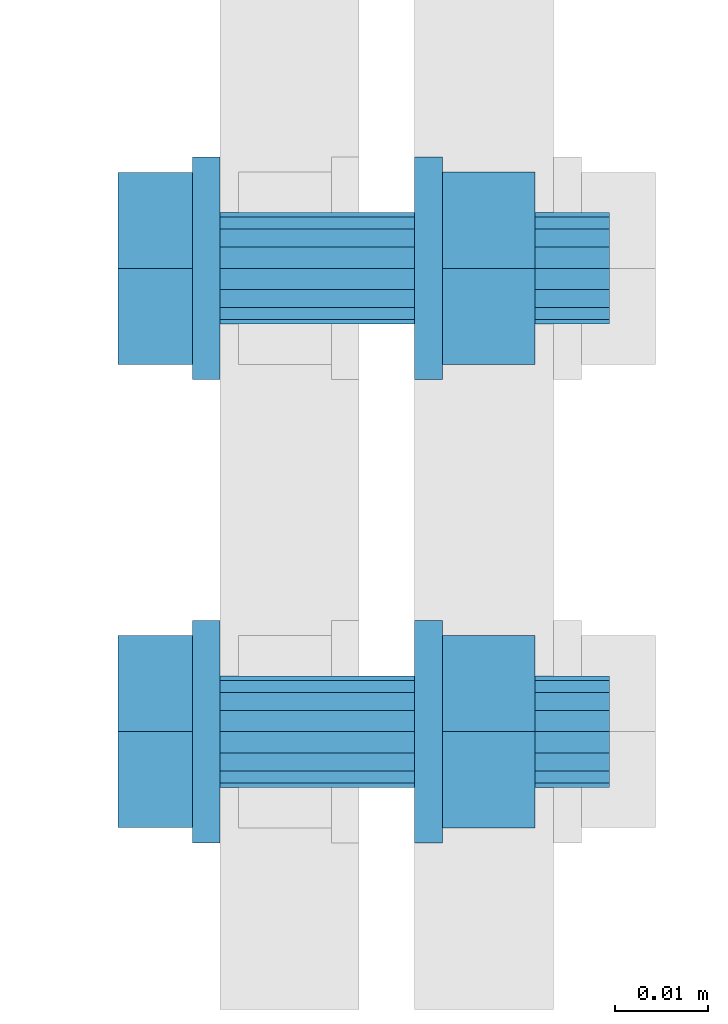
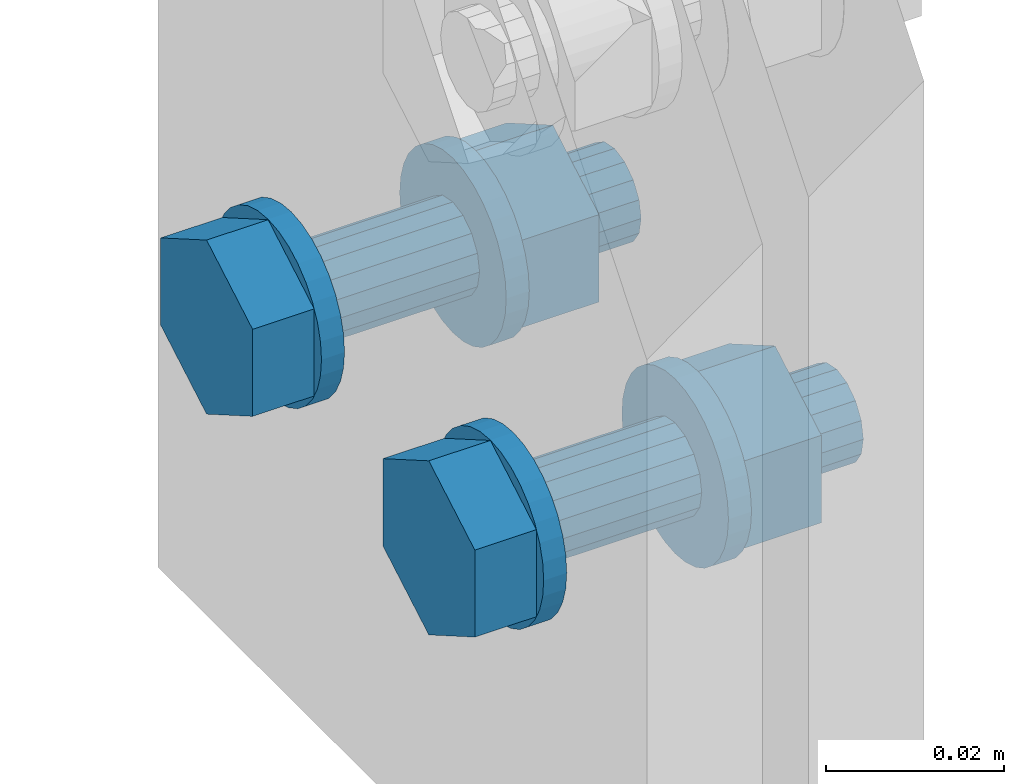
# One storey, part 5 of 13: 2 mechanical fasteners.
"""IFC4X3_ADD2 building model written with IfcOpenShell, lengths in millimetres."""

from ifc_helpers import new_model, entity, si_unit, converted_unit, derived_unit, direction, origin, place, context, project, spatial, faceted_brep, element, save


model = new_model("IFC4X3_ADD2")

# Units and contexts
model_context = context("Model", 3, precision=0.01, world=origin(), true_north=direction((6.123233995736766e-17, 1.0)))
plan_context = context("Plan", 3, precision=0.01, world=origin(), true_north=direction((6.123233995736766e-17, 1.0)))
ifc_project = project(units=[si_unit("LENGTHUNIT", "METRE", prefix="MILLI"), converted_unit("PLANEANGLEUNIT", "DEGREE", entity("IfcPlaneAngleMeasure", 0.017453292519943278), si_unit("PLANEANGLEUNIT", "RADIAN"), dimensions=[0, 0, 0, 0, 0, 0, 0]), si_unit("AREAUNIT", "SQUARE_METRE"), si_unit("VOLUMEUNIT", "CUBIC_METRE"), derived_unit("THERMALTRANSMITTANCEUNIT", [(si_unit("MASSUNIT", "GRAM", prefix="KILO"), 1), (si_unit("THERMODYNAMICTEMPERATUREUNIT", "KELVIN"), -1), (si_unit("TIMEUNIT", "SECOND"), -3)]), derived_unit("USERDEFINED", [(si_unit("MASSUNIT", "GRAM", prefix="KILO"), 1), (si_unit("THERMODYNAMICTEMPERATUREUNIT", "KELVIN"), -1), (si_unit("TIMEUNIT", "SECOND"), -2)]), derived_unit("THERMALRESISTANCEUNIT", [(si_unit("MASSUNIT", "GRAM", prefix="KILO"), -1), (si_unit("TIMEUNIT", "SECOND"), 3), (si_unit("THERMODYNAMICTEMPERATUREUNIT", "KELVIN"), 1)]), si_unit("MASSUNIT", "GRAM", prefix="KILO"), derived_unit("MOMENTOFINERTIAUNIT", [(si_unit("LENGTHUNIT", "METRE"), 4)]), derived_unit("LINEARFORCEUNIT", [(si_unit("MASSUNIT", "GRAM", prefix="KILO"), 1), (si_unit("TIMEUNIT", "SECOND"), -2)]), derived_unit("WARPINGCONSTANTUNIT", [(si_unit("LENGTHUNIT", "METRE"), 6)]), si_unit("PRESSUREUNIT", "PASCAL"), derived_unit("MASSDENSITYUNIT", [(si_unit("MASSUNIT", "GRAM", prefix="KILO"), 1), (si_unit("LENGTHUNIT", "METRE"), -3)]), derived_unit("MODULUSOFELASTICITYUNIT", [(si_unit("MASSUNIT", "GRAM", prefix="KILO"), 1), (si_unit("TIMEUNIT", "SECOND"), -2), (si_unit("LENGTHUNIT", "METRE"), -1)]), derived_unit("THERMALEXPANSIONCOEFFICIENTUNIT", [(si_unit("THERMODYNAMICTEMPERATUREUNIT", "KELVIN"), -1)]), derived_unit("VAPORPERMEABILITYUNIT", [(si_unit("LENGTHUNIT", "METRE"), -1), (si_unit("TIMEUNIT", "SECOND"), 1)]), derived_unit("USERDEFINED", [(si_unit("MASSUNIT", "GRAM", prefix="KILO"), 1), (si_unit("TIMEUNIT", "SECOND"), -3), (si_unit("LENGTHUNIT", "METRE"), 3), (si_unit("ELECTRICCURRENTUNIT", "AMPERE"), -2)]), derived_unit("SPECIFICHEATCAPACITYUNIT", [(si_unit("THERMODYNAMICTEMPERATUREUNIT", "KELVIN"), -1), (si_unit("TIMEUNIT", "SECOND"), -2), (si_unit("LENGTHUNIT", "METRE"), 2)]), derived_unit("THERMALCONDUCTANCEUNIT", [(si_unit("MASSUNIT", "GRAM", prefix="KILO"), 1), (si_unit("THERMODYNAMICTEMPERATUREUNIT", "KELVIN"), -1), (si_unit("TIMEUNIT", "SECOND"), -3), (si_unit("LENGTHUNIT", "METRE"), 1)])], contexts=[model_context, plan_context])

# Site, building, storey
site_placement = place(None, origin())
site = spatial("IfcSite", under=ifc_project, at=site_placement, Name="Default", CompositionType="ELEMENT")
building_placement = place(site_placement, origin())
building = spatial("IfcBuilding", under=site, at=building_placement, Name="Complex structure", CompositionType="ELEMENT")
storey_placement = place(building_placement, origin())
storey = spatial("IfcBuildingStorey", under=building, at=storey_placement, Name="Level 00", CompositionType="ELEMENT", Elevation=0.0)

# Mechanical fasteners
mechanical_fastener_1_placement = place(storey_placement, origin())
element("IfcMechanicalFastener", 1, at=mechanical_fastener_1_placement, inside=storey, ObjectType="Bolt#5", NominalDiameter=12.0, NominalLength=45.0, context=model_context, shape_type="Brep", body=[
    faceted_brep([(-9166.221550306, -1295.866703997, 2900.0), (-9163.221550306, -1295.866703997, 2900.0), (-9163.221550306, -1296.097280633, 2897.658916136), (-9166.221550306, -1296.097280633, 2897.658916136), (-9163.221550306, -1296.780149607, 2895.407798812), (-9166.221550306, -1296.780149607, 2895.407798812), (-9163.221550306, -1297.88906865, 2893.333157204), (-9166.221550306, -1297.88906865, 2893.333157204), (-9163.221550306, -1299.381422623, 2891.514718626), (-9166.221550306, -1299.381422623, 2891.514718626), (-9163.221550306, -1301.199861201, 2890.022364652), (-9166.221550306, -1301.199861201, 2890.022364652), (-9163.221550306, -1303.274502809, 2888.91344561), (-9166.221550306, -1303.274502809, 2888.91344561), (-9163.221550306, -1305.525620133, 2888.230576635), (-9166.221550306, -1305.525620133, 2888.230576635), (-9163.221550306, -1307.866703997, 2888.0), (-9166.221550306, -1307.866703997, 2888.0), (-9163.221550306, -1310.207787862, 2888.230576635), (-9166.221550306, -1310.207787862, 2888.230576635), (-9163.221550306, -1312.458905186, 2888.91344561), (-9166.221550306, -1312.458905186, 2888.91344561), (-9163.221550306, -1314.533546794, 2890.022364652), (-9166.221550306, -1314.533546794, 2890.022364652), (-9163.221550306, -1316.351985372, 2891.514718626), (-9166.221550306, -1316.351985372, 2891.514718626), (-9163.221550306, -1317.844339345, 2893.333157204), (-9166.221550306, -1317.844339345, 2893.333157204), (-9163.221550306, -1318.953258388, 2895.407798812), (-9166.221550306, -1318.953258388, 2895.407798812), (-9163.221550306, -1319.636127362, 2897.658916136), (-9166.221550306, -1319.636127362, 2897.658916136), (-9163.221550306, -1319.866703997, 2900.0), (-9166.221550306, -1319.866703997, 2900.0), (-9163.221550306, -1319.636127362, 2902.341083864), (-9166.221550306, -1319.636127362, 2902.341083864), (-9163.221550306, -1318.953258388, 2904.592201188), (-9166.221550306, -1318.953258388, 2904.592201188), (-9163.221550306, -1317.844339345, 2906.666842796), (-9166.221550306, -1317.844339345, 2906.666842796), (-9163.221550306, -1316.351985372, 2908.485281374), (-9166.221550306, -1316.351985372, 2908.485281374), (-9163.221550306, -1314.533546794, 2909.977635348), (-9166.221550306, -1314.533546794, 2909.977635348), (-9163.221550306, -1312.458905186, 2911.08655439), (-9166.221550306, -1312.458905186, 2911.08655439), (-9163.221550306, -1310.207787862, 2911.769423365), (-9166.221550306, -1310.207787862, 2911.769423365), (-9163.221550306, -1307.866703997, 2912.0), (-9166.221550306, -1307.866703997, 2912.0), (-9163.221550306, -1305.525620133, 2911.769423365), (-9166.221550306, -1305.525620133, 2911.769423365), (-9163.221550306, -1303.274502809, 2911.08655439), (-9166.221550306, -1303.274502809, 2911.08655439), (-9163.221550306, -1301.199861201, 2909.977635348), (-9166.221550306, -1301.199861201, 2909.977635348), (-9163.221550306, -1299.381422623, 2908.485281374), (-9166.221550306, -1299.381422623, 2908.485281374), (-9163.221550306, -1297.88906865, 2906.666842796), (-9166.221550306, -1297.88906865, 2906.666842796), (-9163.221550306, -1296.780149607, 2904.592201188), (-9166.221550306, -1296.780149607, 2904.592201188), (-9163.221550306, -1296.097280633, 2902.341083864), (-9166.221550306, -1296.097280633, 2902.341083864)], [[[0, 1, 2, 3]], [[3, 2, 4, 5]], [[5, 4, 6, 7]], [[7, 6, 8, 9]], [[9, 8, 10, 11]], [[11, 10, 12, 13]], [[13, 12, 14, 15]], [[15, 14, 16, 17]], [[17, 16, 18, 19]], [[19, 18, 20, 21]], [[21, 20, 22, 23]], [[23, 22, 24, 25]], [[25, 24, 26, 27]], [[27, 26, 28, 29]], [[29, 28, 30, 31]], [[31, 30, 32, 33]], [[33, 32, 34, 35]], [[35, 34, 36, 37]], [[37, 36, 38, 39]], [[39, 38, 40, 41]], [[41, 40, 42, 43]], [[43, 42, 44, 45]], [[45, 44, 46, 47]], [[47, 46, 48, 49]], [[49, 48, 50, 51]], [[51, 50, 52, 53]], [[53, 52, 54, 55]], [[55, 54, 56, 57]], [[57, 56, 58, 59]], [[59, 58, 60, 61]], [[61, 60, 62, 63]], [[63, 62, 1, 0]], [[0, 3, 5, 7, 9, 11, 13, 15, 17, 19, 21, 23, 25, 27, 29, 31, 33, 35, 37, 39, 41, 43, 45, 47, 49, 51, 53, 55, 57, 59, 61, 63]], [[1, 62, 60, 58, 56, 54, 52, 50, 48, 46, 44, 42, 40, 38, 36, 34, 32, 30, 28, 26, 24, 22, 20, 18, 16, 14, 12, 10, 8, 6, 4, 2]]]),
    faceted_brep([(-9166.221550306, -1318.2200377, 2894.0225), (-9174.221550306, -1318.2200377, 2894.0225), (-9174.221550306, -1307.866703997, 2888.045), (-9166.221550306, -1307.866703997, 2888.045), (-9174.221550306, -1297.513370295, 2894.0225), (-9166.221550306, -1297.513370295, 2894.0225), (-9174.221550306, -1297.513370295, 2905.9775), (-9166.221550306, -1297.513370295, 2905.9775), (-9174.221550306, -1307.866703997, 2911.955), (-9166.221550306, -1307.866703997, 2911.955), (-9174.221550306, -1318.2200377, 2905.9775), (-9166.221550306, -1318.2200377, 2905.9775)], [[[0, 1, 2, 3]], [[3, 2, 4, 5]], [[5, 4, 6, 7]], [[7, 6, 8, 9]], [[9, 8, 10, 11]], [[11, 10, 1, 0]], [[4, 2, 1, 10, 8, 6]], [[0, 3, 5, 7, 9, 11]]]),
    faceted_brep([(-9163.221550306, -1301.866703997, 2900.0), (-9142.221550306, -1301.866703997, 2900.0), (-9142.221550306, -1302.323426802, 2897.703899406), (-9163.221550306, -1302.323426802, 2897.703899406), (-9142.221550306, -1303.62406331, 2895.757359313), (-9163.221550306, -1303.62406331, 2895.757359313), (-9142.221550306, -1305.570603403, 2894.456722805), (-9163.221550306, -1305.570603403, 2894.456722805), (-9142.221550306, -1307.866703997, 2894.0), (-9163.221550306, -1307.866703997, 2894.0), (-9142.221550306, -1310.162804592, 2894.456722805), (-9163.221550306, -1310.162804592, 2894.456722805), (-9142.221550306, -1312.109344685, 2895.757359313), (-9163.221550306, -1312.109344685, 2895.757359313), (-9142.221550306, -1313.409981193, 2897.703899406), (-9163.221550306, -1313.409981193, 2897.703899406), (-9142.221550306, -1313.866703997, 2900.0), (-9163.221550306, -1313.866703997, 2900.0), (-9142.221550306, -1313.409981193, 2902.296100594), (-9163.221550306, -1313.409981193, 2902.296100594), (-9142.221550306, -1312.109344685, 2904.242640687), (-9163.221550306, -1312.109344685, 2904.242640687), (-9142.221550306, -1310.162804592, 2905.543277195), (-9163.221550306, -1310.162804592, 2905.543277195), (-9142.221550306, -1307.866703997, 2906.0), (-9163.221550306, -1307.866703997, 2906.0), (-9142.221550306, -1305.570603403, 2905.543277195), (-9163.221550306, -1305.570603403, 2905.543277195), (-9142.221550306, -1303.62406331, 2904.242640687), (-9163.221550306, -1303.62406331, 2904.242640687), (-9142.221550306, -1302.323426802, 2902.296100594), (-9163.221550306, -1302.323426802, 2902.296100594)], [[[0, 1, 2, 3]], [[3, 2, 4, 5]], [[5, 4, 6, 7]], [[7, 6, 8, 9]], [[9, 8, 10, 11]], [[11, 10, 12, 13]], [[13, 12, 14, 15]], [[15, 14, 16, 17]], [[17, 16, 18, 19]], [[19, 18, 20, 21]], [[21, 20, 22, 23]], [[23, 22, 24, 25]], [[25, 24, 26, 27]], [[27, 26, 28, 29]], [[29, 28, 30, 31]], [[31, 30, 1, 0]], [[0, 3, 5, 7, 9, 11, 13, 15, 17, 19, 21, 23, 25, 27, 29, 31]], [[1, 30, 28, 26, 24, 22, 20, 18, 16, 14, 12, 10, 8, 6, 4, 2]]]),
    faceted_brep([(-9142.221550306, -1295.866703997, 2900.0), (-9139.221550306, -1295.866703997, 2900.0), (-9139.221550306, -1296.097280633, 2897.658916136), (-9142.221550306, -1296.097280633, 2897.658916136), (-9139.221550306, -1296.780149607, 2895.407798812), (-9142.221550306, -1296.780149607, 2895.407798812), (-9139.221550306, -1297.88906865, 2893.333157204), (-9142.221550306, -1297.88906865, 2893.333157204), (-9139.221550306, -1299.381422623, 2891.514718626), (-9142.221550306, -1299.381422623, 2891.514718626), (-9139.221550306, -1301.199861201, 2890.022364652), (-9142.221550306, -1301.199861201, 2890.022364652), (-9139.221550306, -1303.274502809, 2888.91344561), (-9142.221550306, -1303.274502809, 2888.91344561), (-9139.221550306, -1305.525620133, 2888.230576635), (-9142.221550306, -1305.525620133, 2888.230576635), (-9139.221550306, -1307.866703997, 2888.0), (-9142.221550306, -1307.866703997, 2888.0), (-9139.221550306, -1310.207787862, 2888.230576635), (-9142.221550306, -1310.207787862, 2888.230576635), (-9139.221550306, -1312.458905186, 2888.91344561), (-9142.221550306, -1312.458905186, 2888.91344561), (-9139.221550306, -1314.533546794, 2890.022364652), (-9142.221550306, -1314.533546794, 2890.022364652), (-9139.221550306, -1316.351985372, 2891.514718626), (-9142.221550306, -1316.351985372, 2891.514718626), (-9139.221550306, -1317.844339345, 2893.333157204), (-9142.221550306, -1317.844339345, 2893.333157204), (-9139.221550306, -1318.953258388, 2895.407798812), (-9142.221550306, -1318.953258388, 2895.407798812), (-9139.221550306, -1319.636127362, 2897.658916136), (-9142.221550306, -1319.636127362, 2897.658916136), (-9139.221550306, -1319.866703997, 2900.0), (-9142.221550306, -1319.866703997, 2900.0), (-9139.221550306, -1319.636127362, 2902.341083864), (-9142.221550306, -1319.636127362, 2902.341083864), (-9139.221550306, -1318.953258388, 2904.592201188), (-9142.221550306, -1318.953258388, 2904.592201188), (-9139.221550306, -1317.844339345, 2906.666842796), (-9142.221550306, -1317.844339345, 2906.666842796), (-9139.221550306, -1316.351985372, 2908.485281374), (-9142.221550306, -1316.351985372, 2908.485281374), (-9139.221550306, -1314.533546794, 2909.977635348), (-9142.221550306, -1314.533546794, 2909.977635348), (-9139.221550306, -1312.458905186, 2911.08655439), (-9142.221550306, -1312.458905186, 2911.08655439), (-9139.221550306, -1310.207787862, 2911.769423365), (-9142.221550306, -1310.207787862, 2911.769423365), (-9139.221550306, -1307.866703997, 2912.0), (-9142.221550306, -1307.866703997, 2912.0), (-9139.221550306, -1305.525620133, 2911.769423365), (-9142.221550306, -1305.525620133, 2911.769423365), (-9139.221550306, -1303.274502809, 2911.08655439), (-9142.221550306, -1303.274502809, 2911.08655439), (-9139.221550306, -1301.199861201, 2909.977635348), (-9142.221550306, -1301.199861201, 2909.977635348), (-9139.221550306, -1299.381422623, 2908.485281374), (-9142.221550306, -1299.381422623, 2908.485281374), (-9139.221550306, -1297.88906865, 2906.666842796), (-9142.221550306, -1297.88906865, 2906.666842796), (-9139.221550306, -1296.780149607, 2904.592201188), (-9142.221550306, -1296.780149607, 2904.592201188), (-9139.221550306, -1296.097280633, 2902.341083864), (-9142.221550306, -1296.097280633, 2902.341083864)], [[[0, 1, 2, 3]], [[3, 2, 4, 5]], [[5, 4, 6, 7]], [[7, 6, 8, 9]], [[9, 8, 10, 11]], [[11, 10, 12, 13]], [[13, 12, 14, 15]], [[15, 14, 16, 17]], [[17, 16, 18, 19]], [[19, 18, 20, 21]], [[21, 20, 22, 23]], [[23, 22, 24, 25]], [[25, 24, 26, 27]], [[27, 26, 28, 29]], [[29, 28, 30, 31]], [[31, 30, 32, 33]], [[33, 32, 34, 35]], [[35, 34, 36, 37]], [[37, 36, 38, 39]], [[39, 38, 40, 41]], [[41, 40, 42, 43]], [[43, 42, 44, 45]], [[45, 44, 46, 47]], [[47, 46, 48, 49]], [[49, 48, 50, 51]], [[51, 50, 52, 53]], [[53, 52, 54, 55]], [[55, 54, 56, 57]], [[57, 56, 58, 59]], [[59, 58, 60, 61]], [[61, 60, 62, 63]], [[63, 62, 1, 0]], [[0, 3, 5, 7, 9, 11, 13, 15, 17, 19, 21, 23, 25, 27, 29, 31, 33, 35, 37, 39, 41, 43, 45, 47, 49, 51, 53, 55, 57, 59, 61, 63]], [[1, 62, 60, 58, 56, 54, 52, 50, 48, 46, 44, 42, 40, 38, 36, 34, 32, 30, 28, 26, 24, 22, 20, 18, 16, 14, 12, 10, 8, 6, 4, 2]]]),
    faceted_brep([(-9129.221550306, -1318.259008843, 2894.0), (-9139.221550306, -1318.259008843, 2894.0), (-9139.221550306, -1307.866703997, 2888.0), (-9129.221550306, -1307.866703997, 2888.0), (-9139.221550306, -1297.474399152, 2894.0), (-9129.221550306, -1297.474399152, 2894.0), (-9139.221550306, -1297.474399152, 2906.0), (-9129.221550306, -1297.474399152, 2906.0), (-9139.221550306, -1307.866703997, 2912.0), (-9129.221550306, -1307.866703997, 2912.0), (-9139.221550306, -1318.259008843, 2906.0), (-9129.221550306, -1318.259008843, 2906.0)], [[[0, 1, 2, 3]], [[3, 2, 4, 5]], [[5, 4, 6, 7]], [[7, 6, 8, 9]], [[9, 8, 10, 11]], [[11, 10, 1, 0]], [[4, 2, 1, 10, 8, 6]], [[0, 3, 5, 7, 9, 11]]]),
    faceted_brep([(-9129.221550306, -1301.866703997, 2900.0), (-9121.221550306, -1301.866703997, 2900.0), (-9121.221550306, -1302.323426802, 2897.703899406), (-9129.221550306, -1302.323426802, 2897.703899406), (-9121.221550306, -1303.62406331, 2895.757359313), (-9129.221550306, -1303.62406331, 2895.757359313), (-9121.221550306, -1305.570603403, 2894.456722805), (-9129.221550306, -1305.570603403, 2894.456722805), (-9121.221550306, -1307.866703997, 2894.0), (-9129.221550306, -1307.866703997, 2894.0), (-9121.221550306, -1310.162804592, 2894.456722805), (-9129.221550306, -1310.162804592, 2894.456722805), (-9121.221550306, -1312.109344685, 2895.757359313), (-9129.221550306, -1312.109344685, 2895.757359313), (-9121.221550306, -1313.409981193, 2897.703899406), (-9129.221550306, -1313.409981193, 2897.703899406), (-9121.221550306, -1313.866703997, 2900.0), (-9129.221550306, -1313.866703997, 2900.0), (-9121.221550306, -1313.409981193, 2902.296100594), (-9129.221550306, -1313.409981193, 2902.296100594), (-9121.221550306, -1312.109344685, 2904.242640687), (-9129.221550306, -1312.109344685, 2904.242640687), (-9121.221550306, -1310.162804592, 2905.543277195), (-9129.221550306, -1310.162804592, 2905.543277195), (-9121.221550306, -1307.866703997, 2906.0), (-9129.221550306, -1307.866703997, 2906.0), (-9121.221550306, -1305.570603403, 2905.543277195), (-9129.221550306, -1305.570603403, 2905.543277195), (-9121.221550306, -1303.62406331, 2904.242640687), (-9129.221550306, -1303.62406331, 2904.242640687), (-9121.221550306, -1302.323426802, 2902.296100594), (-9129.221550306, -1302.323426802, 2902.296100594)], [[[0, 1, 2, 3]], [[3, 2, 4, 5]], [[5, 4, 6, 7]], [[7, 6, 8, 9]], [[9, 8, 10, 11]], [[11, 10, 12, 13]], [[13, 12, 14, 15]], [[15, 14, 16, 17]], [[17, 16, 18, 19]], [[19, 18, 20, 21]], [[21, 20, 22, 23]], [[23, 22, 24, 25]], [[25, 24, 26, 27]], [[27, 26, 28, 29]], [[29, 28, 30, 31]], [[31, 30, 1, 0]], [[0, 3, 5, 7, 9, 11, 13, 15, 17, 19, 21, 23, 25, 27, 29, 31]], [[1, 30, 28, 26, 24, 22, 20, 18, 16, 14, 12, 10, 8, 6, 4, 2]]]),
])
mechanical_fastener_2_placement = place(storey_placement, origin())
element("IfcMechanicalFastener", 2, at=mechanical_fastener_2_placement, inside=storey, ObjectType="Bolt#6", NominalDiameter=12.0, NominalLength=45.0, context=model_context, shape_type="Brep", body=[
    faceted_brep([(-9166.221550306, -1269.866703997, 2900.0), (-9163.221550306, -1269.866703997, 2900.0), (-9163.221550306, -1269.636127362, 2902.341083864), (-9166.221550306, -1269.636127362, 2902.341083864), (-9163.221550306, -1268.953258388, 2904.592201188), (-9166.221550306, -1268.953258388, 2904.592201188), (-9163.221550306, -1267.844339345, 2906.666842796), (-9166.221550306, -1267.844339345, 2906.666842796), (-9163.221550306, -1266.351985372, 2908.485281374), (-9166.221550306, -1266.351985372, 2908.485281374), (-9163.221550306, -1264.533546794, 2909.977635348), (-9166.221550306, -1264.533546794, 2909.977635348), (-9163.221550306, -1262.458905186, 2911.08655439), (-9166.221550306, -1262.458905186, 2911.08655439), (-9163.221550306, -1260.207787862, 2911.769423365), (-9166.221550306, -1260.207787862, 2911.769423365), (-9163.221550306, -1257.866703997, 2912.0), (-9166.221550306, -1257.866703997, 2912.0), (-9163.221550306, -1255.525620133, 2911.769423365), (-9166.221550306, -1255.525620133, 2911.769423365), (-9163.221550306, -1253.274502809, 2911.08655439), (-9166.221550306, -1253.274502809, 2911.08655439), (-9163.221550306, -1251.199861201, 2909.977635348), (-9166.221550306, -1251.199861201, 2909.977635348), (-9163.221550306, -1249.381422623, 2908.485281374), (-9166.221550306, -1249.381422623, 2908.485281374), (-9163.221550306, -1247.88906865, 2906.666842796), (-9166.221550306, -1247.88906865, 2906.666842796), (-9163.221550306, -1246.780149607, 2904.592201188), (-9166.221550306, -1246.780149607, 2904.592201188), (-9163.221550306, -1246.097280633, 2902.341083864), (-9166.221550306, -1246.097280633, 2902.341083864), (-9163.221550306, -1245.866703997, 2900.0), (-9166.221550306, -1245.866703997, 2900.0), (-9163.221550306, -1246.097280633, 2897.658916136), (-9166.221550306, -1246.097280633, 2897.658916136), (-9163.221550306, -1246.780149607, 2895.407798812), (-9166.221550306, -1246.780149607, 2895.407798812), (-9163.221550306, -1247.88906865, 2893.333157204), (-9166.221550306, -1247.88906865, 2893.333157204), (-9163.221550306, -1249.381422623, 2891.514718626), (-9166.221550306, -1249.381422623, 2891.514718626), (-9163.221550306, -1251.199861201, 2890.022364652), (-9166.221550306, -1251.199861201, 2890.022364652), (-9163.221550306, -1253.274502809, 2888.91344561), (-9166.221550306, -1253.274502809, 2888.91344561), (-9163.221550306, -1255.525620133, 2888.230576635), (-9166.221550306, -1255.525620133, 2888.230576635), (-9163.221550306, -1257.866703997, 2888.0), (-9166.221550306, -1257.866703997, 2888.0), (-9163.221550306, -1260.207787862, 2888.230576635), (-9166.221550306, -1260.207787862, 2888.230576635), (-9163.221550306, -1262.458905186, 2888.91344561), (-9166.221550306, -1262.458905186, 2888.91344561), (-9163.221550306, -1264.533546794, 2890.022364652), (-9166.221550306, -1264.533546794, 2890.022364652), (-9163.221550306, -1266.351985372, 2891.514718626), (-9166.221550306, -1266.351985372, 2891.514718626), (-9163.221550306, -1267.844339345, 2893.333157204), (-9166.221550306, -1267.844339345, 2893.333157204), (-9163.221550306, -1268.953258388, 2895.407798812), (-9166.221550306, -1268.953258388, 2895.407798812), (-9163.221550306, -1269.636127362, 2897.658916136), (-9166.221550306, -1269.636127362, 2897.658916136)], [[[0, 1, 2, 3]], [[3, 2, 4, 5]], [[5, 4, 6, 7]], [[7, 6, 8, 9]], [[9, 8, 10, 11]], [[11, 10, 12, 13]], [[13, 12, 14, 15]], [[15, 14, 16, 17]], [[17, 16, 18, 19]], [[19, 18, 20, 21]], [[21, 20, 22, 23]], [[23, 22, 24, 25]], [[25, 24, 26, 27]], [[27, 26, 28, 29]], [[29, 28, 30, 31]], [[31, 30, 32, 33]], [[33, 32, 34, 35]], [[35, 34, 36, 37]], [[37, 36, 38, 39]], [[39, 38, 40, 41]], [[41, 40, 42, 43]], [[43, 42, 44, 45]], [[45, 44, 46, 47]], [[47, 46, 48, 49]], [[49, 48, 50, 51]], [[51, 50, 52, 53]], [[53, 52, 54, 55]], [[55, 54, 56, 57]], [[57, 56, 58, 59]], [[59, 58, 60, 61]], [[61, 60, 62, 63]], [[63, 62, 1, 0]], [[0, 3, 5, 7, 9, 11, 13, 15, 17, 19, 21, 23, 25, 27, 29, 31, 33, 35, 37, 39, 41, 43, 45, 47, 49, 51, 53, 55, 57, 59, 61, 63]], [[1, 62, 60, 58, 56, 54, 52, 50, 48, 46, 44, 42, 40, 38, 36, 34, 32, 30, 28, 26, 24, 22, 20, 18, 16, 14, 12, 10, 8, 6, 4, 2]]]),
    faceted_brep([(-9166.221550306, -1247.513370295, 2905.9775), (-9174.221550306, -1247.513370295, 2905.9775), (-9174.221550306, -1257.866703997, 2911.955), (-9166.221550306, -1257.866703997, 2911.955), (-9174.221550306, -1268.2200377, 2905.9775), (-9166.221550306, -1268.2200377, 2905.9775), (-9174.221550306, -1268.2200377, 2894.0225), (-9166.221550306, -1268.2200377, 2894.0225), (-9174.221550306, -1257.866703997, 2888.045), (-9166.221550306, -1257.866703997, 2888.045), (-9174.221550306, -1247.513370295, 2894.0225), (-9166.221550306, -1247.513370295, 2894.0225)], [[[0, 1, 2, 3]], [[3, 2, 4, 5]], [[5, 4, 6, 7]], [[7, 6, 8, 9]], [[9, 8, 10, 11]], [[11, 10, 1, 0]], [[4, 2, 1, 10, 8, 6]], [[0, 3, 5, 7, 9, 11]]]),
    faceted_brep([(-9163.221550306, -1263.866703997, 2900.0), (-9142.221550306, -1263.866703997, 2900.0), (-9142.221550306, -1263.409981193, 2902.296100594), (-9163.221550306, -1263.409981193, 2902.296100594), (-9142.221550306, -1262.109344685, 2904.242640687), (-9163.221550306, -1262.109344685, 2904.242640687), (-9142.221550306, -1260.162804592, 2905.543277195), (-9163.221550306, -1260.162804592, 2905.543277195), (-9142.221550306, -1257.866703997, 2906.0), (-9163.221550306, -1257.866703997, 2906.0), (-9142.221550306, -1255.570603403, 2905.543277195), (-9163.221550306, -1255.570603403, 2905.543277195), (-9142.221550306, -1253.62406331, 2904.242640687), (-9163.221550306, -1253.62406331, 2904.242640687), (-9142.221550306, -1252.323426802, 2902.296100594), (-9163.221550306, -1252.323426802, 2902.296100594), (-9142.221550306, -1251.866703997, 2900.0), (-9163.221550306, -1251.866703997, 2900.0), (-9142.221550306, -1252.323426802, 2897.703899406), (-9163.221550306, -1252.323426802, 2897.703899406), (-9142.221550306, -1253.62406331, 2895.757359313), (-9163.221550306, -1253.62406331, 2895.757359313), (-9142.221550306, -1255.570603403, 2894.456722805), (-9163.221550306, -1255.570603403, 2894.456722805), (-9142.221550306, -1257.866703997, 2894.0), (-9163.221550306, -1257.866703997, 2894.0), (-9142.221550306, -1260.162804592, 2894.456722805), (-9163.221550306, -1260.162804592, 2894.456722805), (-9142.221550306, -1262.109344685, 2895.757359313), (-9163.221550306, -1262.109344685, 2895.757359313), (-9142.221550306, -1263.409981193, 2897.703899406), (-9163.221550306, -1263.409981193, 2897.703899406)], [[[0, 1, 2, 3]], [[3, 2, 4, 5]], [[5, 4, 6, 7]], [[7, 6, 8, 9]], [[9, 8, 10, 11]], [[11, 10, 12, 13]], [[13, 12, 14, 15]], [[15, 14, 16, 17]], [[17, 16, 18, 19]], [[19, 18, 20, 21]], [[21, 20, 22, 23]], [[23, 22, 24, 25]], [[25, 24, 26, 27]], [[27, 26, 28, 29]], [[29, 28, 30, 31]], [[31, 30, 1, 0]], [[0, 3, 5, 7, 9, 11, 13, 15, 17, 19, 21, 23, 25, 27, 29, 31]], [[1, 30, 28, 26, 24, 22, 20, 18, 16, 14, 12, 10, 8, 6, 4, 2]]]),
    faceted_brep([(-9142.221550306, -1269.866703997, 2900.0), (-9139.221550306, -1269.866703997, 2900.0), (-9139.221550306, -1269.636127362, 2902.341083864), (-9142.221550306, -1269.636127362, 2902.341083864), (-9139.221550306, -1268.953258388, 2904.592201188), (-9142.221550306, -1268.953258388, 2904.592201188), (-9139.221550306, -1267.844339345, 2906.666842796), (-9142.221550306, -1267.844339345, 2906.666842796), (-9139.221550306, -1266.351985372, 2908.485281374), (-9142.221550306, -1266.351985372, 2908.485281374), (-9139.221550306, -1264.533546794, 2909.977635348), (-9142.221550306, -1264.533546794, 2909.977635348), (-9139.221550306, -1262.458905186, 2911.08655439), (-9142.221550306, -1262.458905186, 2911.08655439), (-9139.221550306, -1260.207787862, 2911.769423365), (-9142.221550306, -1260.207787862, 2911.769423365), (-9139.221550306, -1257.866703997, 2912.0), (-9142.221550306, -1257.866703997, 2912.0), (-9139.221550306, -1255.525620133, 2911.769423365), (-9142.221550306, -1255.525620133, 2911.769423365), (-9139.221550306, -1253.274502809, 2911.08655439), (-9142.221550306, -1253.274502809, 2911.08655439), (-9139.221550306, -1251.199861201, 2909.977635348), (-9142.221550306, -1251.199861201, 2909.977635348), (-9139.221550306, -1249.381422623, 2908.485281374), (-9142.221550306, -1249.381422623, 2908.485281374), (-9139.221550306, -1247.88906865, 2906.666842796), (-9142.221550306, -1247.88906865, 2906.666842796), (-9139.221550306, -1246.780149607, 2904.592201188), (-9142.221550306, -1246.780149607, 2904.592201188), (-9139.221550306, -1246.097280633, 2902.341083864), (-9142.221550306, -1246.097280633, 2902.341083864), (-9139.221550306, -1245.866703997, 2900.0), (-9142.221550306, -1245.866703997, 2900.0), (-9139.221550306, -1246.097280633, 2897.658916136), (-9142.221550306, -1246.097280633, 2897.658916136), (-9139.221550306, -1246.780149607, 2895.407798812), (-9142.221550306, -1246.780149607, 2895.407798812), (-9139.221550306, -1247.88906865, 2893.333157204), (-9142.221550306, -1247.88906865, 2893.333157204), (-9139.221550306, -1249.381422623, 2891.514718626), (-9142.221550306, -1249.381422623, 2891.514718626), (-9139.221550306, -1251.199861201, 2890.022364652), (-9142.221550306, -1251.199861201, 2890.022364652), (-9139.221550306, -1253.274502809, 2888.91344561), (-9142.221550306, -1253.274502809, 2888.91344561), (-9139.221550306, -1255.525620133, 2888.230576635), (-9142.221550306, -1255.525620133, 2888.230576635), (-9139.221550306, -1257.866703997, 2888.0), (-9142.221550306, -1257.866703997, 2888.0), (-9139.221550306, -1260.207787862, 2888.230576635), (-9142.221550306, -1260.207787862, 2888.230576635), (-9139.221550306, -1262.458905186, 2888.91344561), (-9142.221550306, -1262.458905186, 2888.91344561), (-9139.221550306, -1264.533546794, 2890.022364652), (-9142.221550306, -1264.533546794, 2890.022364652), (-9139.221550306, -1266.351985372, 2891.514718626), (-9142.221550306, -1266.351985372, 2891.514718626), (-9139.221550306, -1267.844339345, 2893.333157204), (-9142.221550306, -1267.844339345, 2893.333157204), (-9139.221550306, -1268.953258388, 2895.407798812), (-9142.221550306, -1268.953258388, 2895.407798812), (-9139.221550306, -1269.636127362, 2897.658916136), (-9142.221550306, -1269.636127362, 2897.658916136)], [[[0, 1, 2, 3]], [[3, 2, 4, 5]], [[5, 4, 6, 7]], [[7, 6, 8, 9]], [[9, 8, 10, 11]], [[11, 10, 12, 13]], [[13, 12, 14, 15]], [[15, 14, 16, 17]], [[17, 16, 18, 19]], [[19, 18, 20, 21]], [[21, 20, 22, 23]], [[23, 22, 24, 25]], [[25, 24, 26, 27]], [[27, 26, 28, 29]], [[29, 28, 30, 31]], [[31, 30, 32, 33]], [[33, 32, 34, 35]], [[35, 34, 36, 37]], [[37, 36, 38, 39]], [[39, 38, 40, 41]], [[41, 40, 42, 43]], [[43, 42, 44, 45]], [[45, 44, 46, 47]], [[47, 46, 48, 49]], [[49, 48, 50, 51]], [[51, 50, 52, 53]], [[53, 52, 54, 55]], [[55, 54, 56, 57]], [[57, 56, 58, 59]], [[59, 58, 60, 61]], [[61, 60, 62, 63]], [[63, 62, 1, 0]], [[0, 3, 5, 7, 9, 11, 13, 15, 17, 19, 21, 23, 25, 27, 29, 31, 33, 35, 37, 39, 41, 43, 45, 47, 49, 51, 53, 55, 57, 59, 61, 63]], [[1, 62, 60, 58, 56, 54, 52, 50, 48, 46, 44, 42, 40, 38, 36, 34, 32, 30, 28, 26, 24, 22, 20, 18, 16, 14, 12, 10, 8, 6, 4, 2]]]),
    faceted_brep([(-9129.221550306, -1247.474399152, 2906.0), (-9139.221550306, -1247.474399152, 2906.0), (-9139.221550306, -1257.866703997, 2912.0), (-9129.221550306, -1257.866703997, 2912.0), (-9139.221550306, -1268.259008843, 2906.0), (-9129.221550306, -1268.259008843, 2906.0), (-9139.221550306, -1268.259008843, 2894.0), (-9129.221550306, -1268.259008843, 2894.0), (-9139.221550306, -1257.866703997, 2888.0), (-9129.221550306, -1257.866703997, 2888.0), (-9139.221550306, -1247.474399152, 2894.0), (-9129.221550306, -1247.474399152, 2894.0)], [[[0, 1, 2, 3]], [[3, 2, 4, 5]], [[5, 4, 6, 7]], [[7, 6, 8, 9]], [[9, 8, 10, 11]], [[11, 10, 1, 0]], [[4, 2, 1, 10, 8, 6]], [[0, 3, 5, 7, 9, 11]]]),
    faceted_brep([(-9129.221550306, -1263.866703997, 2900.0), (-9121.221550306, -1263.866703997, 2900.0), (-9121.221550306, -1263.409981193, 2902.296100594), (-9129.221550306, -1263.409981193, 2902.296100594), (-9121.221550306, -1262.109344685, 2904.242640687), (-9129.221550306, -1262.109344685, 2904.242640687), (-9121.221550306, -1260.162804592, 2905.543277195), (-9129.221550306, -1260.162804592, 2905.543277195), (-9121.221550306, -1257.866703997, 2906.0), (-9129.221550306, -1257.866703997, 2906.0), (-9121.221550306, -1255.570603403, 2905.543277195), (-9129.221550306, -1255.570603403, 2905.543277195), (-9121.221550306, -1253.62406331, 2904.242640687), (-9129.221550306, -1253.62406331, 2904.242640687), (-9121.221550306, -1252.323426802, 2902.296100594), (-9129.221550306, -1252.323426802, 2902.296100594), (-9121.221550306, -1251.866703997, 2900.0), (-9129.221550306, -1251.866703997, 2900.0), (-9121.221550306, -1252.323426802, 2897.703899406), (-9129.221550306, -1252.323426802, 2897.703899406), (-9121.221550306, -1253.62406331, 2895.757359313), (-9129.221550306, -1253.62406331, 2895.757359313), (-9121.221550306, -1255.570603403, 2894.456722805), (-9129.221550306, -1255.570603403, 2894.456722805), (-9121.221550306, -1257.866703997, 2894.0), (-9129.221550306, -1257.866703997, 2894.0), (-9121.221550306, -1260.162804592, 2894.456722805), (-9129.221550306, -1260.162804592, 2894.456722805), (-9121.221550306, -1262.109344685, 2895.757359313), (-9129.221550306, -1262.109344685, 2895.757359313), (-9121.221550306, -1263.409981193, 2897.703899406), (-9129.221550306, -1263.409981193, 2897.703899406)], [[[0, 1, 2, 3]], [[3, 2, 4, 5]], [[5, 4, 6, 7]], [[7, 6, 8, 9]], [[9, 8, 10, 11]], [[11, 10, 12, 13]], [[13, 12, 14, 15]], [[15, 14, 16, 17]], [[17, 16, 18, 19]], [[19, 18, 20, 21]], [[21, 20, 22, 23]], [[23, 22, 24, 25]], [[25, 24, 26, 27]], [[27, 26, 28, 29]], [[29, 28, 30, 31]], [[31, 30, 1, 0]], [[0, 3, 5, 7, 9, 11, 13, 15, 17, 19, 21, 23, 25, 27, 29, 31]], [[1, 30, 28, 26, 24, 22, 20, 18, 16, 14, 12, 10, 8, 6, 4, 2]]]),
])

save(model, "model.ifc")
